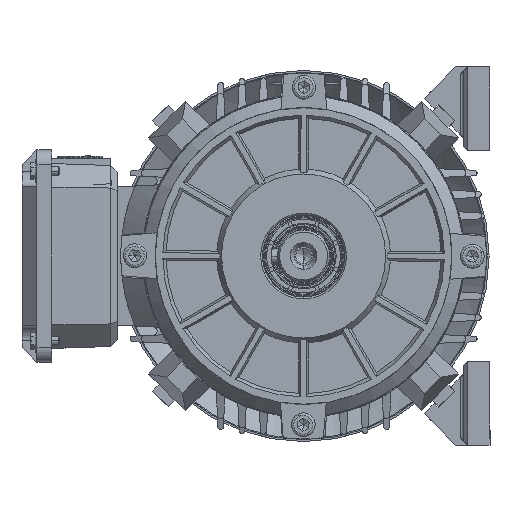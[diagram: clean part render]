
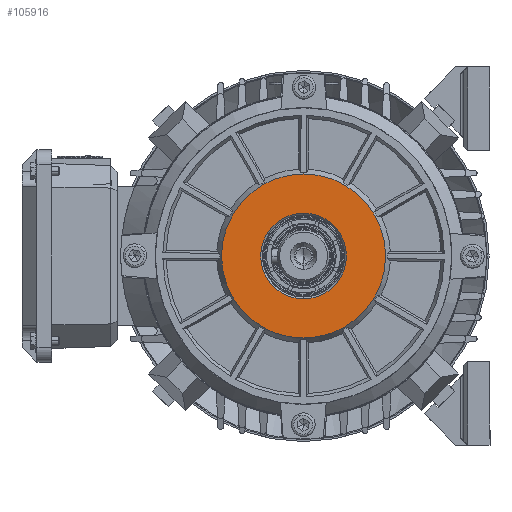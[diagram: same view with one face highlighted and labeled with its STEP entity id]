
A CAD part, left-side view. The second image highlights one B-rep face of the part: STEP entity #105916.
In plain terms, the highlighted planar face has unit normal (-1, 0, 0).
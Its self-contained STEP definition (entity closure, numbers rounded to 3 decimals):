
#9 = EDGE_CURVE ( 'NONE', #15679, #72177, #105807, .T. ) ;
#2460 = CARTESIAN_POINT ( 'NONE',  ( -114.633, 12.741, 44. ) ) ;
#3715 = AXIS2_PLACEMENT_3D ( 'NONE', #59002, #91768, #18197 ) ;
#6543 = DIRECTION ( 'NONE',  ( 0., 1., 0.002 ) ) ;
#11927 = AXIS2_PLACEMENT_3D ( 'NONE', #53811, #87109, #6543 ) ;
#15679 = VERTEX_POINT ( 'NONE', #2460 ) ;
#17936 = CARTESIAN_POINT ( 'NONE',  ( -114.633, 12.821, 0. ) ) ;
#18197 = DIRECTION ( 'NONE',  ( 0., -0.002, 1. ) ) ;
#21584 = FACE_BOUND ( 'NONE', #84900, .T. ) ;
#29072 = AXIS2_PLACEMENT_3D ( 'NONE', #104203, #80573, #71989 ) ;
#31174 = CARTESIAN_POINT ( 'NONE',  ( -114.633, 12.779, 23. ) ) ;
#33190 = CARTESIAN_POINT ( 'NONE',  ( -114.633, 12.862, -23. ) ) ;
#37206 = AXIS2_PLACEMENT_3D ( 'NONE', #17936, #42092, #83984 ) ;
#41129 = CIRCLE ( 'NONE', #29072, 23. ) ;
#42092 = DIRECTION ( 'NONE',  ( -1., 0., 0. ) ) ;
#43042 = EDGE_CURVE ( 'NONE', #57547, #67234, #41129, .T. ) ;
#46282 = DIRECTION ( 'NONE',  ( 0., -0.002, 1. ) ) ;
#46574 = CIRCLE ( 'NONE', #3715, 23. ) ;
#46817 = CARTESIAN_POINT ( 'NONE',  ( -114.633, 12.821, 0. ) ) ;
#50465 = EDGE_CURVE ( 'NONE', #67234, #57547, #46574, .T. ) ;
#50781 = CARTESIAN_POINT ( 'NONE',  ( -114.633, 12.9, -44. ) ) ;
#53811 = CARTESIAN_POINT ( 'NONE',  ( -114.633, 35.821, 0.041 ) ) ;
#57547 = VERTEX_POINT ( 'NONE', #33190 ) ;
#59002 = CARTESIAN_POINT ( 'NONE',  ( -114.633, 12.821, 0. ) ) ;
#60416 = EDGE_CURVE ( 'NONE', #72177, #15679, #77601, .T. ) ;
#61192 = EDGE_LOOP ( 'NONE', ( #62906, #63232 ) ) ;
#61214 = ORIENTED_EDGE ( 'NONE', *, *, #43042, .F. ) ;
#62906 = ORIENTED_EDGE ( 'NONE', *, *, #60416, .T. ) ;
#63232 = ORIENTED_EDGE ( 'NONE', *, *, #9, .T. ) ;
#67234 = VERTEX_POINT ( 'NONE', #31174 ) ;
#70440 = PLANE ( 'NONE',  #11927 ) ;
#71989 = DIRECTION ( 'NONE',  ( 0., -0.002, 1. ) ) ;
#72177 = VERTEX_POINT ( 'NONE', #50781 ) ;
#74167 = AXIS2_PLACEMENT_3D ( 'NONE', #46817, #94621, #46282 ) ;
#77601 = CIRCLE ( 'NONE', #74167, 44. ) ;
#80573 = DIRECTION ( 'NONE',  ( -1., 0., 0. ) ) ;
#83984 = DIRECTION ( 'NONE',  ( 0., -0.002, 1. ) ) ;
#84900 = EDGE_LOOP ( 'NONE', ( #86225, #61214 ) ) ;
#86225 = ORIENTED_EDGE ( 'NONE', *, *, #50465, .F. ) ;
#87109 = DIRECTION ( 'NONE',  ( 1., 0., 0. ) ) ;
#91768 = DIRECTION ( 'NONE',  ( -1., 0., 0. ) ) ;
#94621 = DIRECTION ( 'NONE',  ( -1., 0., 0. ) ) ;
#96747 = FACE_OUTER_BOUND ( 'NONE', #61192, .T. ) ;
#104203 = CARTESIAN_POINT ( 'NONE',  ( -114.633, 12.821, 0. ) ) ;
#105807 = CIRCLE ( 'NONE', #37206, 44. ) ;
#105916 = ADVANCED_FACE ( 'NONE', ( #96747, #21584 ), #70440, .F. ) ;
